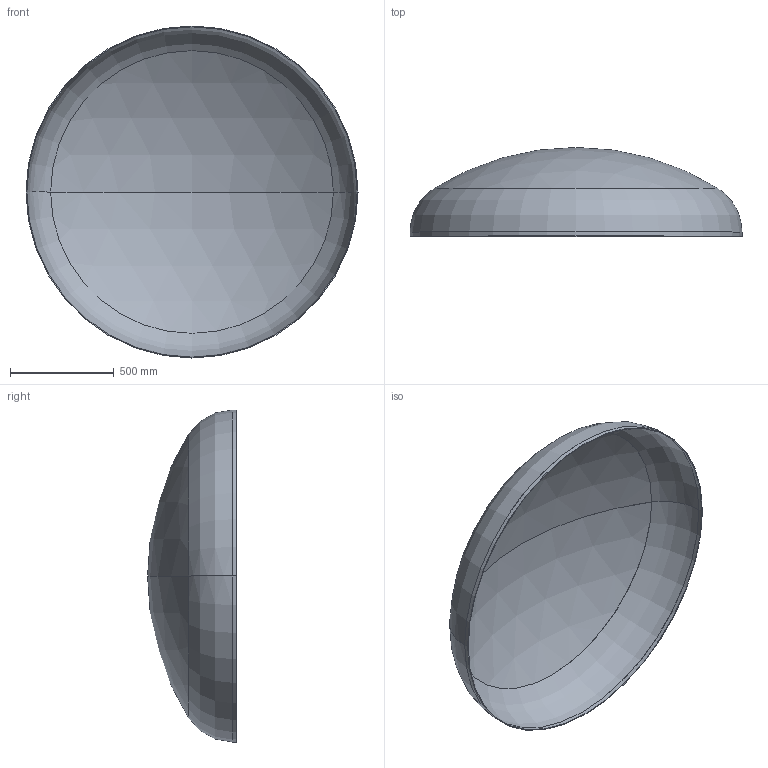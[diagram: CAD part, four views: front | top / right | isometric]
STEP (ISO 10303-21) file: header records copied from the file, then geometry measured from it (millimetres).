
FILE_DESCRIPTION (( 'STEP AP203' ), '1' );
FILE_NAME ('DIN 28013 Korbbogenform_-_Boden DIN 28013 - 1600 x 20 - I - s=4.step', '2016-07-01T11:02:21', ( '' ), ( '' ), 'SwSTEP 2.0', 'SolidWorks 2013', '' );
FILE_SCHEMA (( 'CONFIG_CONTROL_DESIGN' ));
Length unit declared in the file: millimetre
Products named in the file (1): DIN 28013 Korbbogenform_-_Boden DIN 28013 - 1600 x 20 - I - s=4
Bounding box: 1600 x 427.86 x 1600 mm (x, y, z)
Volume: 11491725.7 mm3; surface area: 5765949.9 mm2
Topology: 1 solids, 1 shells, 13 faces, 24 edges, 14 vertices
Faces by surface type: torus 4, cylinder 4, sphere 4, plane 1
Entity records: 407 total; most frequent: DIRECTION 72, CARTESIAN_POINT 52, ORIENTED_EDGE 48, AXIS2_PLACEMENT_3D 34, EDGE_CURVE 24, CIRCLE 20, VERTEX_POINT 14, EDGE_LOOP 14
